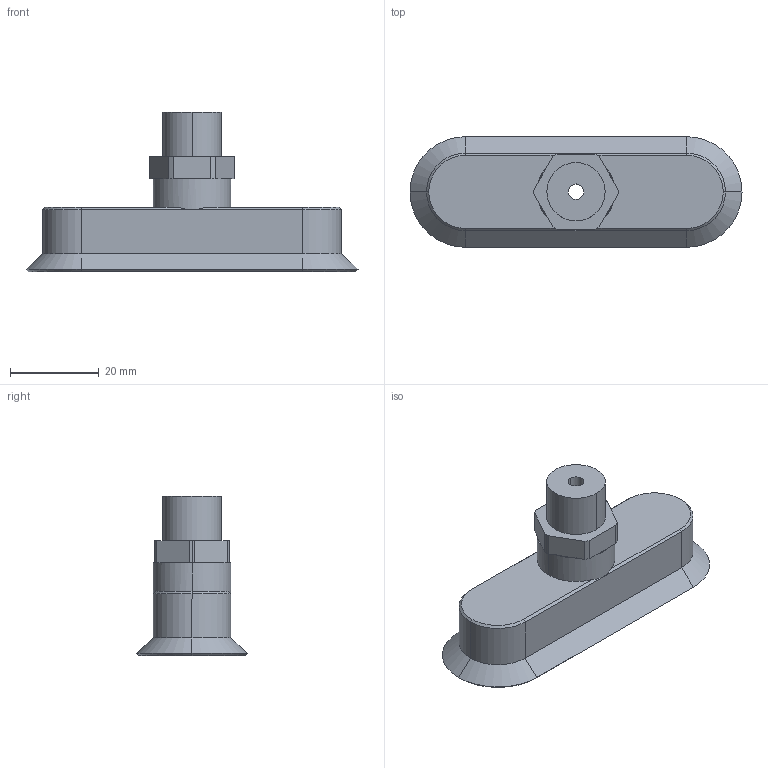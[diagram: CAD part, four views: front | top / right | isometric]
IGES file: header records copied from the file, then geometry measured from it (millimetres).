
Start section: 3D InterOp IGES (v. 2018 1.0.2), Spatial Corp. Copyright (c) 1999-2017.
Global section: file name: schmalz_10_01_05_00094_6exuwm062ccdv7y4bfrr2yper.igs; native system: Spatial Corp.; preprocessor: 3D InterOp ACIS/IGES; author: TraceParts; organization: TraceParts S.A.; date: 20181120.043911; units: millimetre
Bounding box: 75 x 25 x 36 mm (x, y, z)
Surface area: 7216.3 mm2 (no closed solid volume)
Topology: 0 solids, 0 shells, 96 faces, 440 edges, 440 vertices
Faces by surface type: revolution 48, extrusion 48
